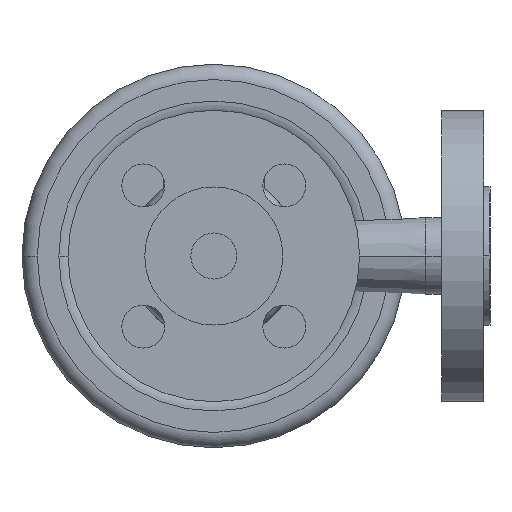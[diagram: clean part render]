
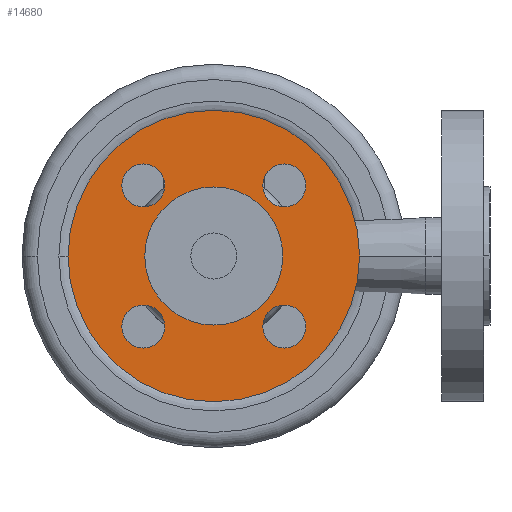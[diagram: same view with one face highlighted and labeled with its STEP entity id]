
A CAD part, front view. The second image highlights one B-rep face of the part: STEP entity #14680.
In plain terms, the highlighted planar face has unit normal (0, -1, 0).
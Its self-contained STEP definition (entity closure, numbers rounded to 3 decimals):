
#610=CARTESIAN_POINT('',(-22.5,2.,0.));
#620=VERTEX_POINT('',#610);
#780=CARTESIAN_POINT('',(22.5,2.,0.));
#790=VERTEX_POINT('',#780);
#820=CARTESIAN_POINT('',(0.,2.,0.));
#830=DIRECTION('',(0.,-1.,0.));
#840=DIRECTION('',(-1.,0.,0.));
#850=AXIS2_PLACEMENT_3D('',#820,#830,#840);
#860=CIRCLE('',#850,22.5);
#870=EDGE_CURVE('',#620,#790,#860,.T.);
#3670=CARTESIAN_POINT('',(47.5,2.,0.));
#3680=VERTEX_POINT('',#3670);
#3710=CARTESIAN_POINT('',(0.,2.,0.));
#3720=DIRECTION('',(0.,1.,0.));
#3730=DIRECTION('',(1.,0.,0.));
#3740=AXIS2_PLACEMENT_3D('',#3710,#3720,#3730);
#3750=CIRCLE('',#3740,47.5);
#3760=CARTESIAN_POINT('',(-47.5,2.,0.));
#3770=VERTEX_POINT('',#3760);
#3780=EDGE_CURVE('',#3770,#3680,#3750,.T.);
#4160=CARTESIAN_POINT('',(29.981,2.,-22.981));
#4170=VERTEX_POINT('',#4160);
#4200=CARTESIAN_POINT('',(22.981,2.,-22.981));
#4210=DIRECTION('',(0.,1.,0.));
#4220=DIRECTION('',(1.,0.,0.));
#4230=AXIS2_PLACEMENT_3D('',#4200,#4210,#4220);
#4240=CIRCLE('',#4230,7.);
#4250=CARTESIAN_POINT('',(15.981,2.,-22.981));
#4260=VERTEX_POINT('',#4250);
#4270=EDGE_CURVE('',#4170,#4260,#4240,.T.);
#4650=CARTESIAN_POINT('',(15.981,2.,22.981));
#4660=VERTEX_POINT('',#4650);
#4690=CARTESIAN_POINT('',(22.981,2.,22.981));
#4700=DIRECTION('',(0.,1.,0.));
#4710=DIRECTION('',(1.,0.,0.));
#4720=AXIS2_PLACEMENT_3D('',#4690,#4700,#4710);
#4730=CIRCLE('',#4720,7.);
#4740=CARTESIAN_POINT('',(29.981,2.,22.981));
#4750=VERTEX_POINT('',#4740);
#4760=EDGE_CURVE('',#4660,#4750,#4730,.T.);
#5140=CARTESIAN_POINT('',(-15.981,2.,-22.981));
#5150=VERTEX_POINT('',#5140);
#5180=CARTESIAN_POINT('',(-22.981,2.,-22.981));
#5190=DIRECTION('',(0.,1.,0.));
#5200=DIRECTION('',(1.,0.,0.));
#5210=AXIS2_PLACEMENT_3D('',#5180,#5190,#5200);
#5220=CIRCLE('',#5210,7.);
#5230=CARTESIAN_POINT('',(-29.981,2.,-22.981));
#5240=VERTEX_POINT('',#5230);
#5250=EDGE_CURVE('',#5150,#5240,#5220,.T.);
#5630=CARTESIAN_POINT('',(-15.981,2.,22.981));
#5640=VERTEX_POINT('',#5630);
#5800=CARTESIAN_POINT('',(-29.981,2.,22.981));
#5810=VERTEX_POINT('',#5800);
#5840=CARTESIAN_POINT('',(-22.981,2.,22.981));
#5850=DIRECTION('',(0.,1.,0.));
#5860=DIRECTION('',(1.,0.,0.));
#5870=AXIS2_PLACEMENT_3D('',#5840,#5850,#5860);
#5880=CIRCLE('',#5870,7.);
#5890=EDGE_CURVE('',#5810,#5640,#5880,.T.);
#14330=CARTESIAN_POINT('',(0.,2.,0.));
#14340=DIRECTION('',(0.,1.,0.));
#14350=DIRECTION('',(0.,0.,1.));
#14360=AXIS2_PLACEMENT_3D('',#14330,#14340,#14350);
#14370=PLANE('',#14360);
#14380=EDGE_CURVE('',#5640,#5810,#5880,.T.);
#14390=ORIENTED_EDGE('',*,*,#14380,.T.);
#14400=ORIENTED_EDGE('',*,*,#5890,.T.);
#14410=EDGE_LOOP('',(#14400,#14390));
#14420=FACE_BOUND('',#14410,.T.);
#14430=ORIENTED_EDGE('',*,*,#5250,.T.);
#14440=EDGE_CURVE('',#5240,#5150,#5220,.T.);
#14450=ORIENTED_EDGE('',*,*,#14440,.T.);
#14460=EDGE_LOOP('',(#14450,#14430));
#14470=FACE_BOUND('',#14460,.T.);
#14480=ORIENTED_EDGE('',*,*,#4760,.T.);
#14490=EDGE_CURVE('',#4750,#4660,#4730,.T.);
#14500=ORIENTED_EDGE('',*,*,#14490,.T.);
#14510=EDGE_LOOP('',(#14500,#14480));
#14520=FACE_BOUND('',#14510,.T.);
#14530=ORIENTED_EDGE('',*,*,#4270,.T.);
#14540=EDGE_CURVE('',#4260,#4170,#4240,.T.);
#14550=ORIENTED_EDGE('',*,*,#14540,.T.);
#14560=EDGE_LOOP('',(#14550,#14530));
#14570=FACE_BOUND('',#14560,.T.);
#14580=ORIENTED_EDGE('',*,*,#3780,.F.);
#14590=EDGE_CURVE('',#3680,#3770,#3750,.T.);
#14600=ORIENTED_EDGE('',*,*,#14590,.F.);
#14610=EDGE_LOOP('',(#14600,#14580));
#14620=FACE_OUTER_BOUND('',#14610,.T.);
#14630=EDGE_CURVE('',#790,#620,#860,.T.);
#14640=ORIENTED_EDGE('',*,*,#14630,.F.);
#14650=ORIENTED_EDGE('',*,*,#870,.F.);
#14660=EDGE_LOOP('',(#14650,#14640));
#14670=FACE_BOUND('',#14660,.T.);
#14680=ADVANCED_FACE('',(#14420,#14470,#14520,#14570,#14620,#14670),
#14370,.F.);
